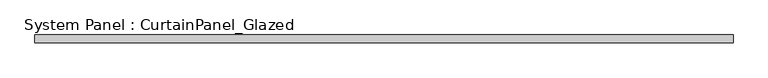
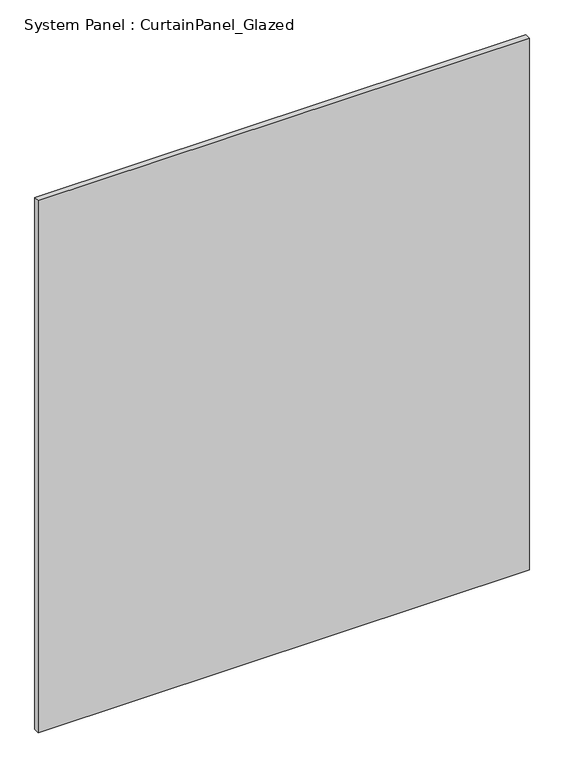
"""IFC4 building model written with IfcOpenShell, lengths in millimetres: plate geometry, System Panel : CurtainPanel_Glazed."""

from ifc_helpers import new_model, si_unit, origin, origin_with_axes, place, context, project, spatial, polyline, outline, extrude, source, transform, mapped, element, save


def system_panel_curtainpanel_glazed_68b8d244(model_context):
    return source(origin(), model_context, "Body", "SweptSolid", [
        extrude(outline(polyline([(1113.6000001, -12.5), (-1113.6000001, -12.5), (-1113.6000001, 12.5), (1113.6000001, 12.5), (1113.6000001, -12.5)])), origin_with_axes(), (0.0, 0.0, 1.0), 2550.0),
    ])


if __name__ == "__main__":
    model = new_model("IFC4")
    model_context = context("Model", 3, world=origin())
    ifc_project = project(units=[si_unit("LENGTHUNIT", "METRE", prefix="MILLI")], contexts=[model_context])
    site = spatial("IfcSite", under=ifc_project)
    building = spatial("IfcBuilding", under=site)
    placement = place(None, origin())
    system_panel_curtainpanel_glazed_shape = system_panel_curtainpanel_glazed_68b8d244(model_context)
    element("IfcPlate", 1, ObjectType="System Panel : CurtainPanel_Glazed", at=placement, inside=building, context=model_context, shape_type="MappedRepresentation", body=[
        mapped(system_panel_curtainpanel_glazed_shape, transform((0.0, 0.0, 0.0), x_axis=(1.0, 0.0, 0.0), y_axis=(0.0, 1.0, 0.0), z_axis=(0.0, 0.0, 1.0))),
    ])
    save(model, "model.ifc")
